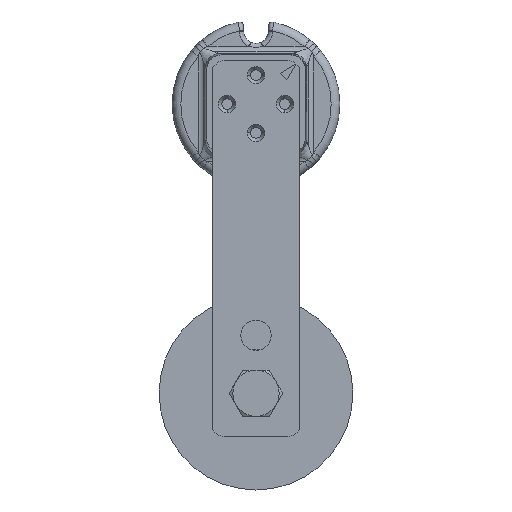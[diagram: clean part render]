
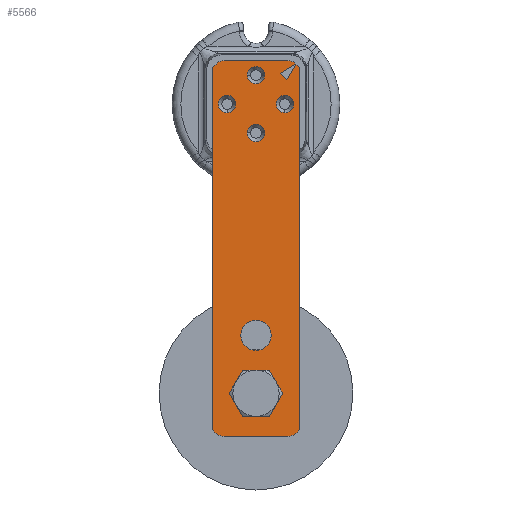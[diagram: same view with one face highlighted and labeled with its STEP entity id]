
A CAD part, front view. The second image highlights one B-rep face of the part: STEP entity #5566.
In plain terms, the highlighted planar face has unit normal (0, -1, 0) as drawn and (0, 0, 1) by its records, which use the part's own axes.
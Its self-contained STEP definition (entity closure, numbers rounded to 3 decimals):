
#4592=CARTESIAN_POINT('',(-9.75,95.0,7.));
#4593=VERTEX_POINT('',#4592);
#4609=CARTESIAN_POINT('',(-20.25,95.0,7.));
#4610=VERTEX_POINT('',#4609);
#4617=CARTESIAN_POINT('',(-15.,95.0,7.));
#4618=DIRECTION('',(0.0,0.0,-1.0));
#4619=DIRECTION('',(1.0,0.0,0.0));
#4620=AXIS2_PLACEMENT_3D('',#4617,#4618,#4619);
#4621=CIRCLE('',#4620,5.25);
#4622=EDGE_CURVE('',#4593,#4610,#4621,.T.);
#4655=CARTESIAN_POINT('',(-9.75,115.0,7.));
#4656=VERTEX_POINT('',#4655);
#4672=CARTESIAN_POINT('',(-20.25,115.0,7.));
#4673=VERTEX_POINT('',#4672);
#4680=CARTESIAN_POINT('',(-15.,115.0,7.));
#4681=DIRECTION('',(0.0,0.0,-1.0));
#4682=DIRECTION('',(1.0,0.0,0.0));
#4683=AXIS2_PLACEMENT_3D('',#4680,#4681,#4682);
#4684=CIRCLE('',#4683,5.25);
#4685=EDGE_CURVE('',#4656,#4673,#4684,.T.);
#4697=CARTESIAN_POINT('',(-18.0,25.0,7.0));
#4698=VERTEX_POINT('',#4697);
#4714=CARTESIAN_POINT('',(-12.,25.0,7.));
#4715=VERTEX_POINT('',#4714);
#4722=CARTESIAN_POINT('',(-15.,25.0,7.));
#4723=DIRECTION('',(0.0,0.0,-1.0));
#4724=DIRECTION('',(-1.0,0.0,0.0));
#4725=AXIS2_PLACEMENT_3D('',#4722,#4723,#4724);
#4726=CIRCLE('',#4725,3.);
#4727=EDGE_CURVE('',#4698,#4715,#4726,.T.);
#4739=CARTESIAN_POINT('',(-25.0,12.,7.0));
#4740=VERTEX_POINT('',#4739);
#4756=CARTESIAN_POINT('',(-25.0,18.,7.));
#4757=VERTEX_POINT('',#4756);
#4764=CARTESIAN_POINT('',(-25.0,15.,7.));
#4765=DIRECTION('',(0.0,0.0,-1.0));
#4766=DIRECTION('',(0.0,-1.0,0.0));
#4767=AXIS2_PLACEMENT_3D('',#4764,#4765,#4766);
#4768=CIRCLE('',#4767,3.);
#4769=EDGE_CURVE('',#4740,#4757,#4768,.T.);
#4781=CARTESIAN_POINT('',(-12.,5.0,7.0));
#4782=VERTEX_POINT('',#4781);
#4798=CARTESIAN_POINT('',(-18.,5.0,7.));
#4799=VERTEX_POINT('',#4798);
#4806=CARTESIAN_POINT('',(-15.,5.0,7.));
#4807=DIRECTION('',(0.0,0.0,-1.0));
#4808=DIRECTION('',(1.0,0.0,0.0));
#4809=AXIS2_PLACEMENT_3D('',#4806,#4807,#4808);
#4810=CIRCLE('',#4809,3.);
#4811=EDGE_CURVE('',#4782,#4799,#4810,.T.);
#4823=CARTESIAN_POINT('',(-5.,18.,7.0));
#4824=VERTEX_POINT('',#4823);
#4840=CARTESIAN_POINT('',(-5.,12.,7.));
#4841=VERTEX_POINT('',#4840);
#4848=CARTESIAN_POINT('',(-5.,15.,7.));
#4849=DIRECTION('',(0.0,0.0,-1.0));
#4850=DIRECTION('',(0.0,1.0,0.0));
#4851=AXIS2_PLACEMENT_3D('',#4848,#4849,#4850);
#4852=CIRCLE('',#4851,3.);
#4853=EDGE_CURVE('',#4824,#4841,#4852,.T.);
#5095=CARTESIAN_POINT('',(-1.172,1.172,7.));
#5096=VERTEX_POINT('',#5095);
#5103=CARTESIAN_POINT('',(-4.,0.0,7.));
#5104=VERTEX_POINT('',#5103);
#5105=CARTESIAN_POINT('',(-4.,4.,7.));
#5106=DIRECTION('',(0.0,0.0,1.0));
#5107=DIRECTION('',(0.0,-1.0,0.0));
#5108=AXIS2_PLACEMENT_3D('',#5105,#5106,#5107);
#5109=CIRCLE('',#5108,4.);
#5110=EDGE_CURVE('',#5104,#5096,#5109,.T.);
#5134=CARTESIAN_POINT('',(0.,2.343,7.));
#5135=VERTEX_POINT('',#5134);
#5142=CARTESIAN_POINT('',(-1.172,1.172,7.));
#5143=DIRECTION('',(0.707,0.707,0.0));
#5144=VECTOR('',#5143,1.657);
#5145=LINE('',#5142,#5144);
#5146=EDGE_CURVE('',#5096,#5135,#5145,.T.);
#5319=CARTESIAN_POINT('',(-26.,0.0,7.));
#5320=VERTEX_POINT('',#5319);
#5321=CARTESIAN_POINT('',(-26.,0.0,7.));
#5322=DIRECTION('',(1.0,0.0,0.0));
#5323=VECTOR('',#5322,22.);
#5324=LINE('',#5321,#5323);
#5325=EDGE_CURVE('',#5320,#5104,#5324,.T.);
#5365=CARTESIAN_POINT('',(-28.828,1.172,7.));
#5366=VERTEX_POINT('',#5365);
#5367=CARTESIAN_POINT('',(-26.,4.,7.));
#5368=DIRECTION('',(0.0,0.0,1.0));
#5369=DIRECTION('',(0.0,-1.0,0.0));
#5370=AXIS2_PLACEMENT_3D('',#5367,#5368,#5369);
#5371=CIRCLE('',#5370,4.);
#5372=EDGE_CURVE('',#5366,#5320,#5371,.T.);
#5399=CARTESIAN_POINT('',(-30.,2.343,7.));
#5400=VERTEX_POINT('',#5399);
#5401=CARTESIAN_POINT('',(-30.,2.343,7.));
#5402=DIRECTION('',(0.707,-0.707,0.0));
#5403=VECTOR('',#5402,1.657);
#5404=LINE('',#5401,#5403);
#5405=EDGE_CURVE('',#5400,#5366,#5404,.T.);
#5416=CARTESIAN_POINT('',(0.0,0.0,7.));
#5417=DIRECTION('',(0.0,0.0,1.0));
#5418=DIRECTION('',(1.0,0.0,0.0));
#5419=AXIS2_PLACEMENT_3D('',#5416,#5417,#5418);
#5420=PLANE('',#5419);
#5421=ORIENTED_EDGE('',*,*,#5146,.T.);
#5422=CARTESIAN_POINT('',(0.,127.657,7.));
#5423=VERTEX_POINT('',#5422);
#5424=CARTESIAN_POINT('',(0.,2.343,7.));
#5425=DIRECTION('',(0.0,1.0,0.0));
#5426=VECTOR('',#5425,125.314);
#5427=LINE('',#5424,#5426);
#5428=EDGE_CURVE('',#5135,#5423,#5427,.T.);
#5429=ORIENTED_EDGE('',*,*,#5428,.T.);
#5430=CARTESIAN_POINT('',(-1.172,128.828,7.));
#5431=VERTEX_POINT('',#5430);
#5432=CARTESIAN_POINT('',(0.,127.657,7.));
#5433=DIRECTION('',(-0.707,0.707,0.0));
#5434=VECTOR('',#5433,1.657);
#5435=LINE('',#5432,#5434);
#5436=EDGE_CURVE('',#5423,#5431,#5435,.T.);
#5437=ORIENTED_EDGE('',*,*,#5436,.T.);
#5438=CARTESIAN_POINT('',(-4.,130.0,7.));
#5439=VERTEX_POINT('',#5438);
#5440=CARTESIAN_POINT('',(-4.,126.0,7.));
#5441=DIRECTION('',(0.0,0.0,1.0));
#5442=DIRECTION('',(0.0,1.0,0.0));
#5443=AXIS2_PLACEMENT_3D('',#5440,#5441,#5442);
#5444=CIRCLE('',#5443,4.);
#5445=EDGE_CURVE('',#5431,#5439,#5444,.T.);
#5446=ORIENTED_EDGE('',*,*,#5445,.T.);
#5447=CARTESIAN_POINT('',(-26.,130.0,7.));
#5448=VERTEX_POINT('',#5447);
#5449=CARTESIAN_POINT('',(-4.,130.0,7.));
#5450=DIRECTION('',(-1.0,0.0,0.0));
#5451=VECTOR('',#5450,22.);
#5452=LINE('',#5449,#5451);
#5453=EDGE_CURVE('',#5439,#5448,#5452,.T.);
#5454=ORIENTED_EDGE('',*,*,#5453,.T.);
#5455=CARTESIAN_POINT('',(-28.828,128.828,7.));
#5456=VERTEX_POINT('',#5455);
#5457=CARTESIAN_POINT('',(-26.,126.0,7.));
#5458=DIRECTION('',(0.0,0.0,1.0));
#5459=DIRECTION('',(0.0,1.0,0.0));
#5460=AXIS2_PLACEMENT_3D('',#5457,#5458,#5459);
#5461=CIRCLE('',#5460,4.);
#5462=EDGE_CURVE('',#5448,#5456,#5461,.T.);
#5463=ORIENTED_EDGE('',*,*,#5462,.T.);
#5464=CARTESIAN_POINT('',(-30.,127.657,7.));
#5465=VERTEX_POINT('',#5464);
#5466=CARTESIAN_POINT('',(-28.828,128.828,7.));
#5467=DIRECTION('',(-0.707,-0.707,0.0));
#5468=VECTOR('',#5467,1.657);
#5469=LINE('',#5466,#5468);
#5470=EDGE_CURVE('',#5456,#5465,#5469,.T.);
#5471=ORIENTED_EDGE('',*,*,#5470,.T.);
#5472=CARTESIAN_POINT('',(-30.,2.343,7.));
#5473=DIRECTION('',(0.0,1.0,0.0));
#5474=VECTOR('',#5473,125.314);
#5475=LINE('',#5472,#5474);
#5476=EDGE_CURVE('',#5400,#5465,#5475,.T.);
#5477=ORIENTED_EDGE('',*,*,#5476,.F.);
#5478=ORIENTED_EDGE('',*,*,#5405,.T.);
#5479=CARTESIAN_POINT('',(-25.646,6.475,7.));
#5480=VERTEX_POINT('',#5479);
#5481=CARTESIAN_POINT('',(-28.828,1.172,7.));
#5482=DIRECTION('',(0.514,0.857,0.0));
#5483=VECTOR('',#5482,6.185);
#5484=LINE('',#5481,#5483);
#5485=EDGE_CURVE('',#5366,#5480,#5484,.T.);
#5486=ORIENTED_EDGE('',*,*,#5485,.T.);
#5487=CARTESIAN_POINT('',(-23.525,4.354,7.));
#5488=VERTEX_POINT('',#5487);
#5489=CARTESIAN_POINT('',(-25.646,6.475,7.));
#5490=DIRECTION('',(0.707,-0.707,0.0));
#5491=VECTOR('',#5490,3.);
#5492=LINE('',#5489,#5491);
#5493=EDGE_CURVE('',#5480,#5488,#5492,.T.);
#5494=ORIENTED_EDGE('',*,*,#5493,.T.);
#5495=CARTESIAN_POINT('',(-23.525,4.354,7.));
#5496=DIRECTION('',(-0.857,-0.514,0.0));
#5497=VECTOR('',#5496,6.185);
#5498=LINE('',#5495,#5497);
#5499=EDGE_CURVE('',#5488,#5366,#5498,.T.);
#5500=ORIENTED_EDGE('',*,*,#5499,.T.);
#5501=ORIENTED_EDGE('',*,*,#5372,.T.);
#5502=ORIENTED_EDGE('',*,*,#5325,.T.);
#5503=ORIENTED_EDGE('',*,*,#5110,.T.);
#5504=EDGE_LOOP('',(#5421,#5429,#5437,#5446,#5454,#5463,#5471,#5477,#5478,#5486,#5494,#5500,#5501,#5502,#5503));
#5505=FACE_OUTER_BOUND('',#5504,.T.);
#5506=ORIENTED_EDGE('',*,*,#4622,.T.);
#5507=CARTESIAN_POINT('',(-15.,95.0,7.));
#5508=DIRECTION('',(0.0,0.0,-1.0));
#5509=DIRECTION('',(1.0,0.0,0.0));
#5510=AXIS2_PLACEMENT_3D('',#5507,#5508,#5509);
#5511=CIRCLE('',#5510,5.25);
#5512=EDGE_CURVE('',#4610,#4593,#5511,.T.);
#5513=ORIENTED_EDGE('',*,*,#5512,.T.);
#5514=EDGE_LOOP('',(#5506,#5513));
#5515=FACE_BOUND('',#5514,.T.);
#5516=ORIENTED_EDGE('',*,*,#4685,.T.);
#5517=CARTESIAN_POINT('',(-15.,115.0,7.));
#5518=DIRECTION('',(0.0,0.0,-1.0));
#5519=DIRECTION('',(1.0,0.0,0.0));
#5520=AXIS2_PLACEMENT_3D('',#5517,#5518,#5519);
#5521=CIRCLE('',#5520,5.25);
#5522=EDGE_CURVE('',#4673,#4656,#5521,.T.);
#5523=ORIENTED_EDGE('',*,*,#5522,.T.);
#5524=EDGE_LOOP('',(#5516,#5523));
#5525=FACE_BOUND('',#5524,.T.);
#5526=CARTESIAN_POINT('',(-15.,25.0,7.));
#5527=DIRECTION('',(0.0,0.0,-1.0));
#5528=DIRECTION('',(-1.0,0.0,0.0));
#5529=AXIS2_PLACEMENT_3D('',#5526,#5527,#5528);
#5530=CIRCLE('',#5529,3.);
#5531=EDGE_CURVE('',#4715,#4698,#5530,.T.);
#5532=ORIENTED_EDGE('',*,*,#5531,.T.);
#5533=ORIENTED_EDGE('',*,*,#4727,.T.);
#5534=EDGE_LOOP('',(#5532,#5533));
#5535=FACE_BOUND('',#5534,.T.);
#5536=CARTESIAN_POINT('',(-25.0,15.,7.));
#5537=DIRECTION('',(0.0,0.0,-1.0));
#5538=DIRECTION('',(0.0,-1.0,0.0));
#5539=AXIS2_PLACEMENT_3D('',#5536,#5537,#5538);
#5540=CIRCLE('',#5539,3.);
#5541=EDGE_CURVE('',#4757,#4740,#5540,.T.);
#5542=ORIENTED_EDGE('',*,*,#5541,.T.);
#5543=ORIENTED_EDGE('',*,*,#4769,.T.);
#5544=EDGE_LOOP('',(#5542,#5543));
#5545=FACE_BOUND('',#5544,.T.);
#5546=CARTESIAN_POINT('',(-15.,5.0,7.));
#5547=DIRECTION('',(0.0,0.0,-1.0));
#5548=DIRECTION('',(1.0,0.0,0.0));
#5549=AXIS2_PLACEMENT_3D('',#5546,#5547,#5548);
#5550=CIRCLE('',#5549,3.);
#5551=EDGE_CURVE('',#4799,#4782,#5550,.T.);
#5552=ORIENTED_EDGE('',*,*,#5551,.T.);
#5553=ORIENTED_EDGE('',*,*,#4811,.T.);
#5554=EDGE_LOOP('',(#5552,#5553));
#5555=FACE_BOUND('',#5554,.T.);
#5556=CARTESIAN_POINT('',(-5.,15.,7.));
#5557=DIRECTION('',(0.0,0.0,-1.0));
#5558=DIRECTION('',(0.0,1.0,0.0));
#5559=AXIS2_PLACEMENT_3D('',#5556,#5557,#5558);
#5560=CIRCLE('',#5559,3.);
#5561=EDGE_CURVE('',#4841,#4824,#5560,.T.);
#5562=ORIENTED_EDGE('',*,*,#5561,.T.);
#5563=ORIENTED_EDGE('',*,*,#4853,.T.);
#5564=EDGE_LOOP('',(#5562,#5563));
#5565=FACE_BOUND('',#5564,.T.);
#5566=ADVANCED_FACE('',(#5505,#5515,#5525,#5535,#5545,#5555,#5565),#5420,.T.);
